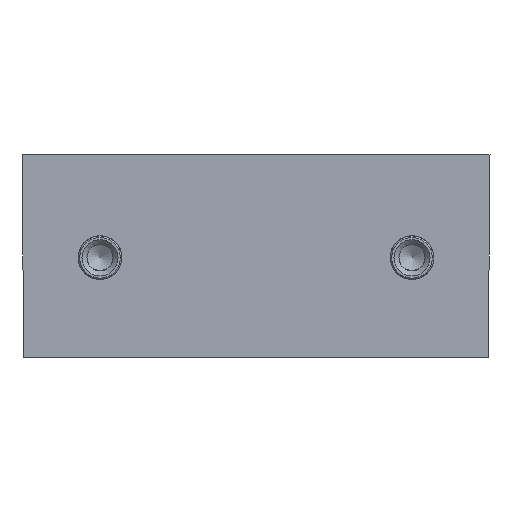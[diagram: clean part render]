
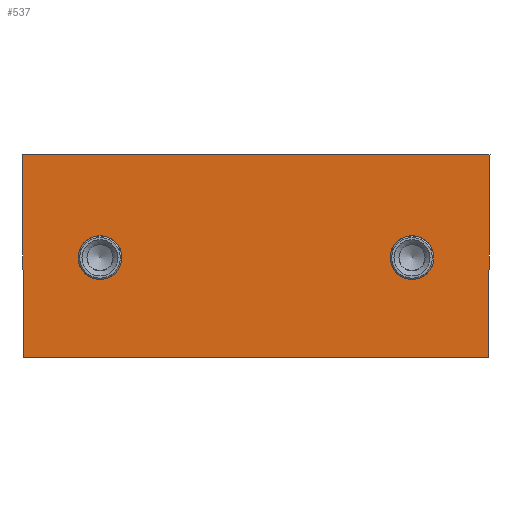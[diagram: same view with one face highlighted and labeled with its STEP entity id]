
A CAD part, front view. The second image highlights one B-rep face of the part: STEP entity #537.
In plain terms, the highlighted planar face has unit normal (0, -1, -0.009).
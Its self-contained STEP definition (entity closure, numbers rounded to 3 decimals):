
#537=ADVANCED_FACE('',(#1285,#1287,#1289),#1291,.T.);
#1285=FACE_BOUND('',#1286,.T.);
#1286=EDGE_LOOP('',(#1941,#1942,#1943,#1944));
#1287=FACE_BOUND('',#1288,.T.);
#1288=EDGE_LOOP('',(#1945));
#1289=FACE_BOUND('',#1290,.T.);
#1290=EDGE_LOOP('',(#1946));
#1291=PLANE('',#1292);
#1292=AXIS2_PLACEMENT_3D('',#1293,#1294,#1295);
#1293=CARTESIAN_POINT('',(0.,-81.641,253.093));
#1294=DIRECTION('',(-0.,-1.,-0.009));
#1295=DIRECTION('',(-1.,0.,0.));
#1941=ORIENTED_EDGE('',*,*,#2239,.F.);
#1942=ORIENTED_EDGE('',*,*,#2225,.T.);
#1943=ORIENTED_EDGE('',*,*,#2238,.T.);
#1944=ORIENTED_EDGE('',*,*,#2240,.T.);
#1945=ORIENTED_EDGE('',*,*,#2241,.T.);
#1946=ORIENTED_EDGE('',*,*,#2242,.F.);
#2225=EDGE_CURVE('',#2388,#2386,#2389,.T.);
#2238=EDGE_CURVE('',#2386,#2408,#2410,.T.);
#2239=EDGE_CURVE('',#2388,#2411,#2412,.T.);
#2240=EDGE_CURVE('',#2408,#2411,#2413,.T.);
#2241=EDGE_CURVE('',#2414,#2414,#2415,.T.);
#2242=EDGE_CURVE('',#2416,#2416,#2417,.T.);
#2386=VERTEX_POINT('',#2677);
#2388=VERTEX_POINT('',#2681);
#2389=LINE('',#2682,#2683);
#2408=VERTEX_POINT('',#2728);
#2410=LINE('',#2732,#2733);
#2411=VERTEX_POINT('',#2735);
#2412=LINE('',#2736,#2737);
#2413=LINE('',#2739,#2740);
#2414=VERTEX_POINT('',#2742);
#2415=(BOUNDED_CURVE()B_SPLINE_CURVE(3,
(#2743,#2744,#2745,#2746,#2747,#2748,#2749),
.UNSPECIFIED.,.T.,.F.)B_SPLINE_CURVE_WITH_KNOTS((4,3,4),
(0.,0.5,1.),
.UNSPECIFIED.)CURVE()GEOMETRIC_REPRESENTATION_ITEM()RATIONAL_B_SPLINE_CURVE((1.,
0.333,0.333,1.,0.333,0.333,1.))
REPRESENTATION_ITEM(''));
#2416=VERTEX_POINT('',#2750);
#2417=(BOUNDED_CURVE()B_SPLINE_CURVE(3,
(#2751,#2752,#2753,#2754,#2755,#2756,#2757),
.UNSPECIFIED.,.T.,.F.)B_SPLINE_CURVE_WITH_KNOTS((4,3,4),
(0.,0.5,1.),
.UNSPECIFIED.)CURVE()GEOMETRIC_REPRESENTATION_ITEM()RATIONAL_B_SPLINE_CURVE((1.,
0.333,0.333,1.,0.333,0.333,1.))
REPRESENTATION_ITEM(''));
#2677=CARTESIAN_POINT('',(74.433,-79.433,0.));
#2681=CARTESIAN_POINT('',(-74.433,-79.433,0.));
#2682=CARTESIAN_POINT('',(-74.433,-79.433,0.));
#2683=VECTOR('',#2684,1.);
#2684=DIRECTION('',(1.,0.,0.));
#2728=CARTESIAN_POINT('',(75.,-80.,65.));
#2732=CARTESIAN_POINT('',(74.433,-79.433,0.));
#2733=VECTOR('',#2734,1.);
#2734=DIRECTION('',(0.009,-0.009,1.));
#2735=CARTESIAN_POINT('',(-75.,-80.,65.));
#2736=CARTESIAN_POINT('',(-74.433,-79.433,0.));
#2737=VECTOR('',#2738,1.);
#2738=DIRECTION('',(-0.009,-0.009,1.));
#2739=CARTESIAN_POINT('',(75.,-80.,65.));
#2740=VECTOR('',#2741,1.);
#2741=DIRECTION('',(-1.,0.,0.));
#2742=CARTESIAN_POINT('',(-43.,-79.712,32.));
#2743=CARTESIAN_POINT('',(-43.,-79.712,32.));
#2744=CARTESIAN_POINT('',(-43.,-79.59,18.));
#2745=CARTESIAN_POINT('',(-57.,-79.59,18.));
#2746=CARTESIAN_POINT('',(-57.,-79.712,32.));
#2747=CARTESIAN_POINT('',(-57.,-79.834,46.));
#2748=CARTESIAN_POINT('',(-43.,-79.834,46.));
#2749=CARTESIAN_POINT('',(-43.,-79.712,32.));
#2750=CARTESIAN_POINT('',(43.,-79.712,32.));
#2751=CARTESIAN_POINT('',(43.,-79.712,32.));
#2752=CARTESIAN_POINT('',(43.,-79.59,18.));
#2753=CARTESIAN_POINT('',(57.,-79.59,18.));
#2754=CARTESIAN_POINT('',(57.,-79.712,32.));
#2755=CARTESIAN_POINT('',(57.,-79.834,46.));
#2756=CARTESIAN_POINT('',(43.,-79.834,46.));
#2757=CARTESIAN_POINT('',(43.,-79.712,32.));
